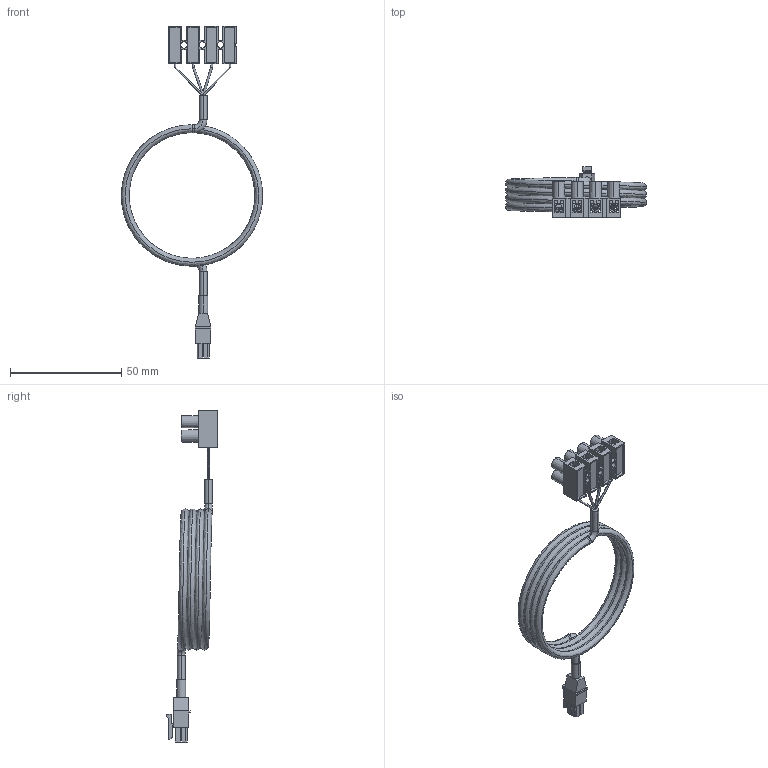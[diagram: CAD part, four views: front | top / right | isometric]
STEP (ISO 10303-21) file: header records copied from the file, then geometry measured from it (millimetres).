
FILE_DESCRIPTION (( 'STEP AP214' ), '1' );
FILE_NAME ('FB-049-003_PR2FK20M_assembly .STEP', '2023-03-20T07:10:10', ( '' ), ( '' ), 'SwSTEP 2.0', 'SolidWorks 2022', '' );
FILE_SCHEMA (( 'AUTOMOTIVE_DESIGN' ));
Length unit declared in the file: millimetre
Products named in the file (1): FB-049-003_PR2FK20M_assembly 
Bounding box: 63.5 x 23.09 x 149.24 mm (x, y, z)
Surface area: 14828.2 mm2 (no closed solid volume)
Topology: 0 solids, 9 shells, 320 faces, 1085 edges, 765 vertices
Faces by surface type: plane 218, cylinder 42, cone 32, bspline 20, torus 8
Entity records: 17748 total; most frequent: CARTESIAN_POINT 4950, ORIENTED_EDGE 1826, DIRECTION 1798, EDGE_CURVE 1085, LINE 828, VECTOR 828, VERTEX_POINT 765, AXIS2_PLACEMENT_3D 485
